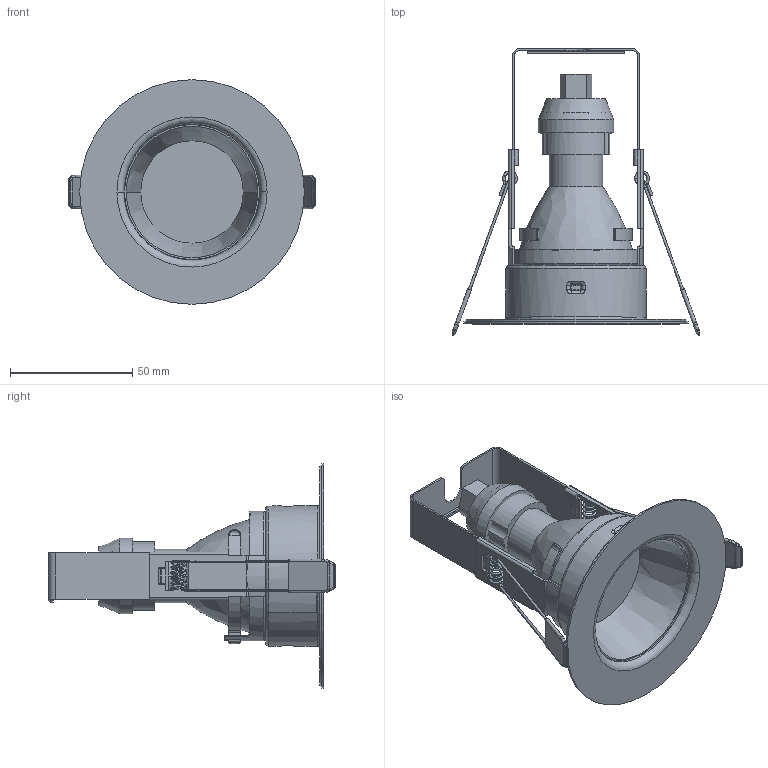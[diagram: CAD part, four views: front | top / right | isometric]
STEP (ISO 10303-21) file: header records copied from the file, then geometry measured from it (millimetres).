
FILE_DESCRIPTION((''),'2;1');
FILE_NAME('ZX2025062306-044-TC44016_ASM','2025-10-20T10:33:33',('Administrator'),(''),'CREO PARAMETRIC BY PTC INC, 2018100','CREO PARAMETRIC BY PTC INC, 2018100','');
FILE_SCHEMA(('CONFIG_CONTROL_DESIGN','SHAPE_APPEARANCE_LAYERS_GROUPS'));
Length unit declared in the file: millimetre
Products named in the file (17): W0751-1; SJ0743; DENGMIAN-1_ASM; DENGMIAN_ASM; W0200-2_07_02; F0128_07_02; GU10-DENGBEI_07_02; SJ0553_07_02; W0624-2_07_02; P0630_07_02; WG0209-1_07_02; WG0209-2_07_02; WG0737_07_02; W0614_07_02; W0201_07_02; P0190_07_02; ZX2025062306-044-TC44016_ASM
Assembly tree (19 placements, depth 4):
  ZX2025062306-044-TC44016_ASM
    DENGMIAN_ASM
      DENGMIAN-1_ASM
        W0751-1
        SJ0743
    W0200-2_07_02
    F0128_07_02
    GU10-DENGBEI_07_02
    SJ0553_07_02
    W0624-2_07_02  x2
    P0630_07_02  x2
    WG0209-1_07_02
    WG0209-2_07_02
    WG0737_07_02  x2
    W0614_07_02
    W0201_07_02
    P0190_07_02
Bounding box: 101.41 x 117.55 x 92 mm (x, y, z)
Volume: 84039.2 mm3; surface area: 73976.8 mm2
Topology: 17 solids, 17 shells, 971 faces, 2502 edges, 1610 vertices
Faces by surface type: plane 473, cylinder 297, bspline 92, torus 64, sphere 16, extrusion 15, cone 14
Entity records: 36530 total; most frequent: CARTESIAN_POINT 9239, ORIENTED_EDGE 4344, DIRECTION 4259, EDGE_CURVE 2172, PRESENTATION_STYLE_ASSIGNMENT 2067, STYLED_ITEM 2067, CURVE_STYLE 2056, AXIS2_PLACEMENT_3D 1496
